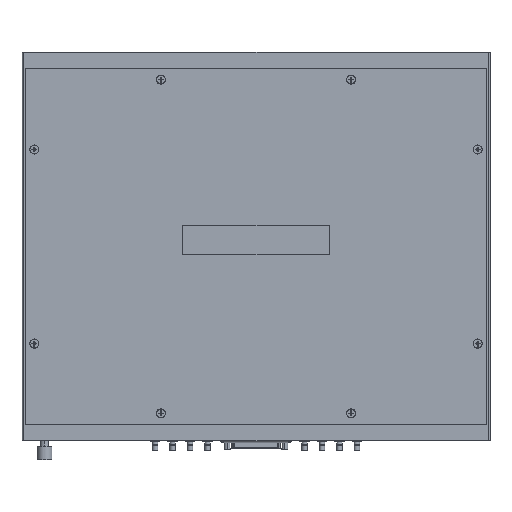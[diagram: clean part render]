
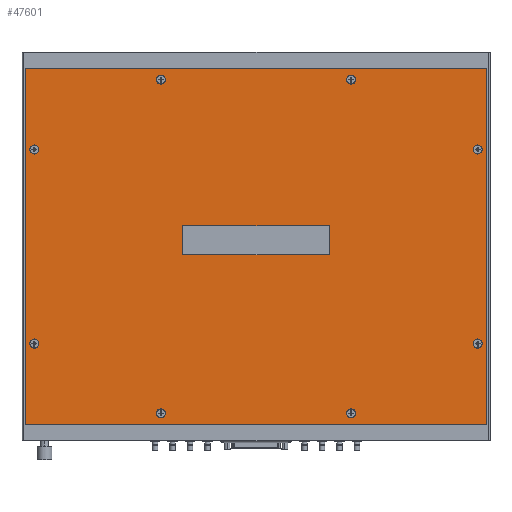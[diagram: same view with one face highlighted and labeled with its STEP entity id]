
A CAD part, front view. The second image highlights one B-rep face of the part: STEP entity #47601.
In plain terms, the highlighted planar face has unit normal (0, -1, 0).
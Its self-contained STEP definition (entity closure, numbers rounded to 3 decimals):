
#10469=DIRECTION('',(0.,0.,1.));
#10470=VECTOR('',#10469,9.15);
#10471=CARTESIAN_POINT('',(0.055,-0.845,-9.575));
#10472=LINE('',#10471,#10470);
#10473=DIRECTION('',(1.,0.,0.));
#10474=VECTOR('',#10473,11.87);
#10475=CARTESIAN_POINT('',(0.055,-0.845,-0.425));
#10476=LINE('',#10475,#10474);
#10477=DIRECTION('',(0.,0.,-1.));
#10478=VECTOR('',#10477,9.15);
#10479=CARTESIAN_POINT('',(11.925,-0.845,-0.425));
#10480=LINE('',#10479,#10478);
#10481=DIRECTION('',(-1.,0.,0.));
#10482=VECTOR('',#10481,11.87);
#10483=CARTESIAN_POINT('',(11.925,-0.845,-9.575));
#10484=LINE('',#10483,#10482);
#10485=CARTESIAN_POINT('',(11.703,-0.845,-2.5));
#10486=DIRECTION('',(0.,1.,0.));
#10487=DIRECTION('',(-1.,0.,0.));
#10488=AXIS2_PLACEMENT_3D('',#10485,#10486,#10487);
#10490=CARTESIAN_POINT('',(11.703,-0.845,-2.5));
#10491=DIRECTION('',(0.,1.,0.));
#10492=DIRECTION('',(1.,0.,0.));
#10493=AXIS2_PLACEMENT_3D('',#10490,#10491,#10492);
#10495=CARTESIAN_POINT('',(11.703,-0.845,-7.5));
#10496=DIRECTION('',(0.,1.,0.));
#10497=DIRECTION('',(-1.,0.,0.));
#10498=AXIS2_PLACEMENT_3D('',#10495,#10496,#10497);
#10500=CARTESIAN_POINT('',(11.703,-0.845,-7.5));
#10501=DIRECTION('',(0.,1.,0.));
#10502=DIRECTION('',(1.,0.,0.));
#10503=AXIS2_PLACEMENT_3D('',#10500,#10501,#10502);
#10505=CARTESIAN_POINT('',(8.44,-0.845,-0.7));
#10506=DIRECTION('',(0.,1.,0.));
#10507=DIRECTION('',(-1.,0.,0.));
#10508=AXIS2_PLACEMENT_3D('',#10505,#10506,#10507);
#10510=CARTESIAN_POINT('',(8.44,-0.845,-0.7));
#10511=DIRECTION('',(0.,1.,0.));
#10512=DIRECTION('',(1.,0.,0.));
#10513=AXIS2_PLACEMENT_3D('',#10510,#10511,#10512);
#10515=CARTESIAN_POINT('',(3.54,-0.845,-0.7));
#10516=DIRECTION('',(0.,1.,0.));
#10517=DIRECTION('',(-1.,0.,0.));
#10518=AXIS2_PLACEMENT_3D('',#10515,#10516,#10517);
#10520=CARTESIAN_POINT('',(3.54,-0.845,-0.7));
#10521=DIRECTION('',(0.,1.,0.));
#10522=DIRECTION('',(1.,0.,0.));
#10523=AXIS2_PLACEMENT_3D('',#10520,#10521,#10522);
#10525=CARTESIAN_POINT('',(0.278,-0.845,-2.5));
#10526=DIRECTION('',(0.,1.,0.));
#10527=DIRECTION('',(-1.,0.,0.));
#10528=AXIS2_PLACEMENT_3D('',#10525,#10526,#10527);
#10530=CARTESIAN_POINT('',(0.278,-0.845,-2.5));
#10531=DIRECTION('',(0.,1.,0.));
#10532=DIRECTION('',(1.,0.,0.));
#10533=AXIS2_PLACEMENT_3D('',#10530,#10531,#10532);
#10535=CARTESIAN_POINT('',(0.278,-0.845,-7.5));
#10536=DIRECTION('',(0.,1.,0.));
#10537=DIRECTION('',(-1.,0.,0.));
#10538=AXIS2_PLACEMENT_3D('',#10535,#10536,#10537);
#10540=CARTESIAN_POINT('',(0.278,-0.845,-7.5));
#10541=DIRECTION('',(0.,1.,0.));
#10542=DIRECTION('',(1.,0.,0.));
#10543=AXIS2_PLACEMENT_3D('',#10540,#10541,#10542);
#10545=CARTESIAN_POINT('',(3.54,-0.845,-9.3));
#10546=DIRECTION('',(0.,1.,0.));
#10547=DIRECTION('',(-1.,0.,0.));
#10548=AXIS2_PLACEMENT_3D('',#10545,#10546,#10547);
#10550=CARTESIAN_POINT('',(3.54,-0.845,-9.3));
#10551=DIRECTION('',(0.,1.,0.));
#10552=DIRECTION('',(1.,0.,0.));
#10553=AXIS2_PLACEMENT_3D('',#10550,#10551,#10552);
#10555=CARTESIAN_POINT('',(8.44,-0.845,-9.3));
#10556=DIRECTION('',(0.,1.,0.));
#10557=DIRECTION('',(-1.,0.,0.));
#10558=AXIS2_PLACEMENT_3D('',#10555,#10556,#10557);
#10560=CARTESIAN_POINT('',(8.44,-0.845,-9.3));
#10561=DIRECTION('',(0.,1.,0.));
#10562=DIRECTION('',(1.,0.,0.));
#10563=AXIS2_PLACEMENT_3D('',#10560,#10561,#10562);
#10565=DIRECTION('',(1.,0.,0.));
#10566=VECTOR('',#10565,3.716);
#10567=CARTESIAN_POINT('',(4.132,-0.845,-4.463));
#10568=LINE('',#10567,#10566);
#10569=CARTESIAN_POINT('',(4.132,-0.845,-4.51));
#10570=DIRECTION('',(0.,-1.,0.));
#10571=DIRECTION('',(0.,0.,1.));
#10572=AXIS2_PLACEMENT_3D('',#10569,#10570,#10571);
#10574=DIRECTION('',(0.,0.,1.));
#10575=VECTOR('',#10574,0.656);
#10576=CARTESIAN_POINT('',(4.085,-0.845,-5.166));
#10577=LINE('',#10576,#10575);
#10578=CARTESIAN_POINT('',(4.132,-0.845,-5.166));
#10579=DIRECTION('',(0.,-1.,0.));
#10580=DIRECTION('',(-1.,0.,0.));
#10581=AXIS2_PLACEMENT_3D('',#10578,#10579,#10580);
#10583=DIRECTION('',(-1.,0.,0.));
#10584=VECTOR('',#10583,3.716);
#10585=CARTESIAN_POINT('',(7.848,-0.845,-5.213));
#10586=LINE('',#10585,#10584);
#10587=CARTESIAN_POINT('',(7.848,-0.845,-5.166));
#10588=DIRECTION('',(0.,-1.,0.));
#10589=DIRECTION('',(0.,0.,-1.));
#10590=AXIS2_PLACEMENT_3D('',#10587,#10588,#10589);
#10592=DIRECTION('',(0.,0.,-1.));
#10593=VECTOR('',#10592,0.656);
#10594=CARTESIAN_POINT('',(7.895,-0.845,-4.51));
#10595=LINE('',#10594,#10593);
#10596=CARTESIAN_POINT('',(7.848,-0.845,-4.51));
#10597=DIRECTION('',(0.,-1.,0.));
#10598=DIRECTION('',(1.,0.,0.));
#10599=AXIS2_PLACEMENT_3D('',#10596,#10597,#10598);
#28265=CARTESIAN_POINT('',(0.055,-0.845,-9.575));
#28266=CARTESIAN_POINT('',(0.055,-0.845,-0.425));
#28267=VERTEX_POINT('',#28265);
#28268=VERTEX_POINT('',#28266);
#28269=CARTESIAN_POINT('',(11.925,-0.845,-0.425));
#28270=VERTEX_POINT('',#28269);
#28271=CARTESIAN_POINT('',(11.925,-0.845,-9.575));
#28272=VERTEX_POINT('',#28271);
#28305=CARTESIAN_POINT('',(11.585,-0.845,-2.5));
#28306=CARTESIAN_POINT('',(11.82,-0.845,-2.5));
#28307=VERTEX_POINT('',#28305);
#28308=VERTEX_POINT('',#28306);
#28309=CARTESIAN_POINT('',(11.585,-0.845,-7.5));
#28310=CARTESIAN_POINT('',(11.82,-0.845,-7.5));
#28311=VERTEX_POINT('',#28309);
#28312=VERTEX_POINT('',#28310);
#28313=CARTESIAN_POINT('',(8.323,-0.845,-0.7));
#28314=CARTESIAN_POINT('',(8.558,-0.845,-0.7));
#28315=VERTEX_POINT('',#28313);
#28316=VERTEX_POINT('',#28314);
#28317=CARTESIAN_POINT('',(3.423,-0.845,-0.7));
#28318=CARTESIAN_POINT('',(3.658,-0.845,-0.7));
#28319=VERTEX_POINT('',#28317);
#28320=VERTEX_POINT('',#28318);
#28321=CARTESIAN_POINT('',(0.16,-0.845,-2.5));
#28322=CARTESIAN_POINT('',(0.395,-0.845,-2.5));
#28323=VERTEX_POINT('',#28321);
#28324=VERTEX_POINT('',#28322);
#28325=CARTESIAN_POINT('',(0.16,-0.845,-7.5));
#28326=CARTESIAN_POINT('',(0.395,-0.845,-7.5));
#28327=VERTEX_POINT('',#28325);
#28328=VERTEX_POINT('',#28326);
#28329=CARTESIAN_POINT('',(3.423,-0.845,-9.3));
#28330=CARTESIAN_POINT('',(3.658,-0.845,-9.3));
#28331=VERTEX_POINT('',#28329);
#28332=VERTEX_POINT('',#28330);
#28333=CARTESIAN_POINT('',(8.323,-0.845,-9.3));
#28334=CARTESIAN_POINT('',(8.558,-0.845,-9.3));
#28335=VERTEX_POINT('',#28333);
#28336=VERTEX_POINT('',#28334);
#33388=CARTESIAN_POINT('',(4.132,-0.845,-4.463));
#33389=CARTESIAN_POINT('',(7.848,-0.845,-4.463));
#33390=VERTEX_POINT('',#33388);
#33391=VERTEX_POINT('',#33389);
#33392=CARTESIAN_POINT('',(7.895,-0.845,-4.51));
#33393=CARTESIAN_POINT('',(7.895,-0.845,-5.166));
#33394=VERTEX_POINT('',#33392);
#33395=VERTEX_POINT('',#33393);
#33396=CARTESIAN_POINT('',(7.848,-0.845,-5.213));
#33397=CARTESIAN_POINT('',(4.132,-0.845,-5.213));
#33398=VERTEX_POINT('',#33396);
#33399=VERTEX_POINT('',#33397);
#33400=CARTESIAN_POINT('',(4.085,-0.845,-5.166));
#33401=CARTESIAN_POINT('',(4.085,-0.845,-4.51));
#33402=VERTEX_POINT('',#33400);
#33403=VERTEX_POINT('',#33401);
#47523=CARTESIAN_POINT('',(0.055,-0.845,-9.575));
#47524=DIRECTION('',(0.,1.,0.));
#47525=DIRECTION('',(1.,0.,0.));
#47526=AXIS2_PLACEMENT_3D('',#47523,#47524,#47525);
#47527=PLANE('',#47526);
#47528=ORIENTED_EDGE('',*,*,#45968,.T.);
#47529=ORIENTED_EDGE('',*,*,#47517,.T.);
#47530=ORIENTED_EDGE('',*,*,#46657,.T.);
#47532=ORIENTED_EDGE('',*,*,#47531,.T.);
#47533=EDGE_LOOP('',(#47528,#47529,#47530,#47532));
#47534=FACE_OUTER_BOUND('',#47533,.F.);
#47536=ORIENTED_EDGE('',*,*,#47535,.F.);
#47538=ORIENTED_EDGE('',*,*,#47537,.F.);
#47539=EDGE_LOOP('',(#47536,#47538));
#47540=FACE_BOUND('',#47539,.F.);
#47542=ORIENTED_EDGE('',*,*,#47541,.F.);
#47544=ORIENTED_EDGE('',*,*,#47543,.F.);
#47545=EDGE_LOOP('',(#47542,#47544));
#47546=FACE_BOUND('',#47545,.F.);
#47548=ORIENTED_EDGE('',*,*,#47547,.F.);
#47550=ORIENTED_EDGE('',*,*,#47549,.F.);
#47551=EDGE_LOOP('',(#47548,#47550));
#47552=FACE_BOUND('',#47551,.F.);
#47554=ORIENTED_EDGE('',*,*,#47553,.F.);
#47556=ORIENTED_EDGE('',*,*,#47555,.F.);
#47557=EDGE_LOOP('',(#47554,#47556));
#47558=FACE_BOUND('',#47557,.F.);
#47560=ORIENTED_EDGE('',*,*,#47559,.F.);
#47562=ORIENTED_EDGE('',*,*,#47561,.F.);
#47563=EDGE_LOOP('',(#47560,#47562));
#47564=FACE_BOUND('',#47563,.F.);
#47566=ORIENTED_EDGE('',*,*,#47565,.F.);
#47568=ORIENTED_EDGE('',*,*,#47567,.F.);
#47569=EDGE_LOOP('',(#47566,#47568));
#47570=FACE_BOUND('',#47569,.F.);
#47572=ORIENTED_EDGE('',*,*,#47571,.F.);
#47574=ORIENTED_EDGE('',*,*,#47573,.F.);
#47575=EDGE_LOOP('',(#47572,#47574));
#47576=FACE_BOUND('',#47575,.F.);
#47578=ORIENTED_EDGE('',*,*,#47577,.F.);
#47580=ORIENTED_EDGE('',*,*,#47579,.F.);
#47581=EDGE_LOOP('',(#47578,#47580));
#47582=FACE_BOUND('',#47581,.F.);
#47584=ORIENTED_EDGE('',*,*,#47583,.F.);
#47586=ORIENTED_EDGE('',*,*,#47585,.T.);
#47588=ORIENTED_EDGE('',*,*,#47587,.F.);
#47590=ORIENTED_EDGE('',*,*,#47589,.T.);
#47592=ORIENTED_EDGE('',*,*,#47591,.F.);
#47594=ORIENTED_EDGE('',*,*,#47593,.T.);
#47596=ORIENTED_EDGE('',*,*,#47595,.F.);
#47598=ORIENTED_EDGE('',*,*,#47597,.T.);
#47599=EDGE_LOOP('',(#47584,#47586,#47588,#47590,#47592,#47594,#47596,#47598));
#47600=FACE_BOUND('',#47599,.F.);
#47601=ADVANCED_FACE('',(#47534,#47540,#47546,#47552,#47558,#47564,#47570,
#47576,#47582,#47600),#47527,.F.);
#10489=CIRCLE('',#10488,0.118);
#10494=CIRCLE('',#10493,0.118);
#10499=CIRCLE('',#10498,0.118);
#10504=CIRCLE('',#10503,0.118);
#10509=CIRCLE('',#10508,0.118);
#10514=CIRCLE('',#10513,0.118);
#10519=CIRCLE('',#10518,0.118);
#10524=CIRCLE('',#10523,0.118);
#10529=CIRCLE('',#10528,0.118);
#10534=CIRCLE('',#10533,0.118);
#10539=CIRCLE('',#10538,0.118);
#10544=CIRCLE('',#10543,0.118);
#10549=CIRCLE('',#10548,0.118);
#10554=CIRCLE('',#10553,0.118);
#10559=CIRCLE('',#10558,0.118);
#10564=CIRCLE('',#10563,0.118);
#10573=CIRCLE('',#10572,0.047);
#10582=CIRCLE('',#10581,0.047);
#10591=CIRCLE('',#10590,0.047);
#10600=CIRCLE('',#10599,0.047);
#45968=EDGE_CURVE('',#28267,#28268,#10472,.T.);
#46657=EDGE_CURVE('',#28270,#28272,#10480,.T.);
#47517=EDGE_CURVE('',#28268,#28270,#10476,.T.);
#47531=EDGE_CURVE('',#28272,#28267,#10484,.T.);
#47535=EDGE_CURVE('',#28307,#28308,#10489,.T.);
#47537=EDGE_CURVE('',#28308,#28307,#10494,.T.);
#47541=EDGE_CURVE('',#28311,#28312,#10499,.T.);
#47543=EDGE_CURVE('',#28312,#28311,#10504,.T.);
#47547=EDGE_CURVE('',#28315,#28316,#10509,.T.);
#47549=EDGE_CURVE('',#28316,#28315,#10514,.T.);
#47553=EDGE_CURVE('',#28319,#28320,#10519,.T.);
#47555=EDGE_CURVE('',#28320,#28319,#10524,.T.);
#47559=EDGE_CURVE('',#28323,#28324,#10529,.T.);
#47561=EDGE_CURVE('',#28324,#28323,#10534,.T.);
#47565=EDGE_CURVE('',#28327,#28328,#10539,.T.);
#47567=EDGE_CURVE('',#28328,#28327,#10544,.T.);
#47571=EDGE_CURVE('',#28331,#28332,#10549,.T.);
#47573=EDGE_CURVE('',#28332,#28331,#10554,.T.);
#47577=EDGE_CURVE('',#28335,#28336,#10559,.T.);
#47579=EDGE_CURVE('',#28336,#28335,#10564,.T.);
#47583=EDGE_CURVE('',#33390,#33391,#10568,.T.);
#47585=EDGE_CURVE('',#33390,#33403,#10573,.T.);
#47587=EDGE_CURVE('',#33402,#33403,#10577,.T.);
#47589=EDGE_CURVE('',#33402,#33399,#10582,.T.);
#47591=EDGE_CURVE('',#33398,#33399,#10586,.T.);
#47593=EDGE_CURVE('',#33398,#33395,#10591,.T.);
#47595=EDGE_CURVE('',#33394,#33395,#10595,.T.);
#47597=EDGE_CURVE('',#33394,#33391,#10600,.T.);
